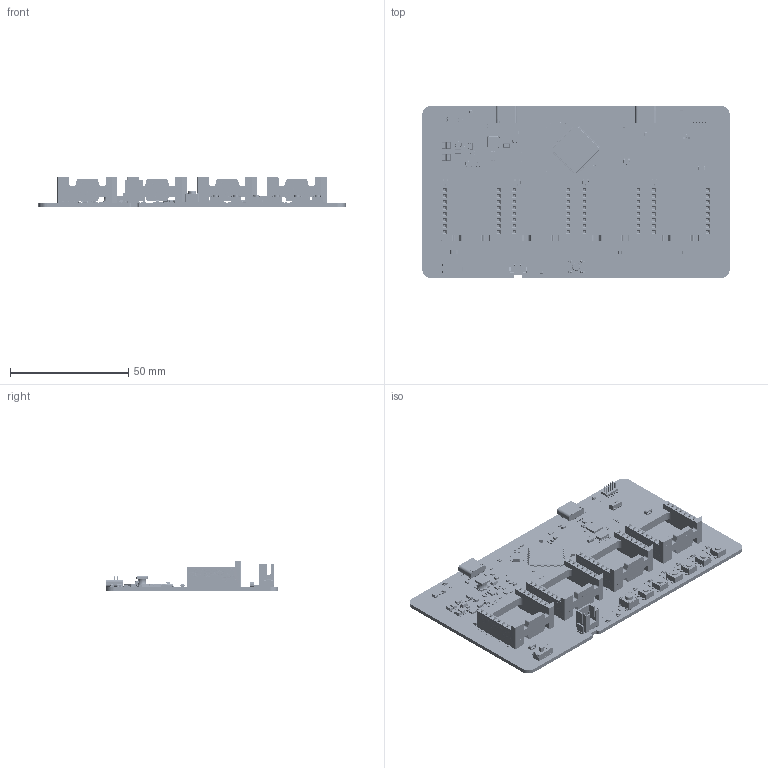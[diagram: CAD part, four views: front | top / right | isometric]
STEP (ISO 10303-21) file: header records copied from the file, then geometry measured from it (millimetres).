
FILE_DESCRIPTION(('Open CASCADE Model'),'2;1');
FILE_NAME('Open CASCADE Shape Model','2026-02-04T09:39:41',('Author'),( 'Open CASCADE'),'Open CASCADE STEP processor 6.8','Open CASCADE 6.8' ,'Unknown');
FILE_SCHEMA(('AUTOMOTIVE_DESIGN { 1 0 10303 214 1 1 1 1 }'));
Length unit declared in the file: millimetre
Products named in the file (1169): PCB; Board; Q10; SOT23-3; R33; User_Library-R_0402; Q14; C12; User_Library-SMD_CAPACITOR0402; C11; LD13; led_0805_yellow; C6; User_Library-SMD_CAPACITOR0603; U4; User_Library-MSOP-8-1; C1; User_Library-SMD_CAPACITOR0805; C34; L1; VLS5045EX-150M-H; FP1; User_Library-ind_0805; C32; C16; R28; R29; TVS2; SW3dPS-SOT-563; TVS1; D5; TV02W-L; LD12; LED_ORANGE_0805; LD10; CHIPLED-0805-RED; Y2; User_Library-ABM7; R3; R39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
Assembly tree (1369 placements, depth 13):
  PCB
    Board
    Q10
      SOT23-3
    R33
      User_Library-R_0402
    Q14
      SOT23-3
    C12
      User_Library-SMD_CAPACITOR0402
    C11
      User_Library-SMD_CAPACITOR0402
    LD13
      led_0805_yellow
    C6
      User_Library-SMD_CAPACITOR0603
    U4
      User_Library-MSOP-8-1
    C1
      User_Library-SMD_CAPACITOR0805
    C34
      User_Library-SMD_CAPACITOR0402
    L1
      VLS5045EX-150M-H
    FP1
      User_Library-ind_0805
    C32
      User_Library-SMD_CAPACITOR0603
    C16
      User_Library-SMD_CAPACITOR0402
    R28
      User_Library-R_0402
    R29
      User_Library-R_0402
    TVS2
      SW3dPS-SOT-563
    TVS1
      SW3dPS-SOT-563
    D5
      TV02W-L
    LD12
      LED_ORANGE_0805
    LD10
      CHIPLED-0805-RED
    Y2
      User_Library-ABM7
    R3
      User_Library-R_0402
    R39
      User_Library-R_0402
    R38
      User_Library-R_0402
    R37
      User_Library-R_0402
    R36
      User_Library-R_0402
    R40
      User_Library-R_0402
    CN2
      USBCSMD
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Bounding box: 130 x 73 x 12.66 mm (x, y, z)
Volume: 17249.5 mm3; surface area: 40498.1 mm2
Topology: 586 solids, 12751 shells, 28491 faces, 109583 edges, 94689 vertices
Faces by surface type: plane 18593, cylinder 4788, bspline 4279, cone 401, sphere 364, extrusion 47, torus 19
Full cylindrical faces by diameter (mm): 0.163 x1, 0.6 x4, 0.762 x24, 1.2 x8
Entity records: 288106 total; most frequent: CARTESIAN_POINT 65045, ORIENTED_EDGE 32451, DIRECTION 30832, EDGE_CURVE 19013, VERTEX_POINT 14346, VECTOR 14282, LINE 14235, AXIS2_PLACEMENT_3D 8275
